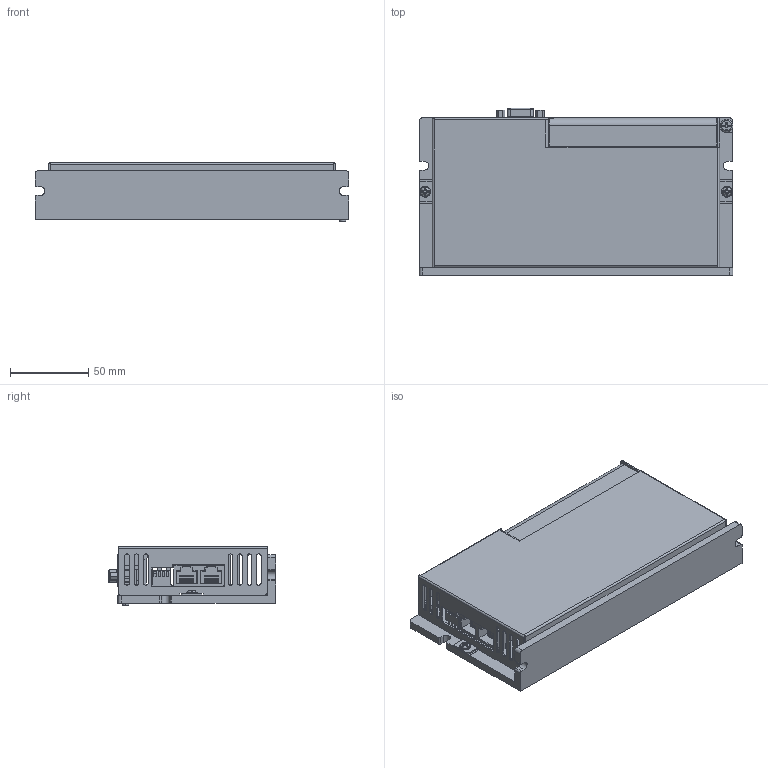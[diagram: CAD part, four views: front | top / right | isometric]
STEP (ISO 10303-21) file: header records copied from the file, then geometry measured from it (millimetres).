
FILE_DESCRIPTION((''),'2;1');
FILE_NAME('000-FD145_ASM_120_ASM_1_ASM','2024-03-06T16:28:24',('RD0058'),(''),'CREO PARAMETRIC BY PTC INC, 2016510','CREO PARAMETRIC BY PTC INC, 2016510','');
FILE_SCHEMA(('CONFIG_CONTROL_DESIGN','SHAPE_APPEARANCE_LAYERS_GROUPS'));
Products named in the file (14): DXF_50_1; BOMA_4_88_1; 9ZHEN-DAOLISHI_2_83_1; CON_NETWORK_PORT_83_1; F8CR-THR-3_5-14P-A-L28_83_1; C165948_TYPE-C_83_1; FD145_1V0-20240108_ASM_12_1; BRTB130-00-XX-C; ASSY_PCA_BOTTOM_ASM_118_ASM_1_ASM; FD145-CAHS_125_1; FD145-HT_78_1; SCREW_JIEZI_M3X4_48_1; SCREW_M4X8_49_1; 000-FD145_ASM_120_ASM_1_ASM
Assembly tree (14 placements, depth 3):
  000-FD145_ASM_120_ASM_1_ASM
    ASSY_PCA_BOTTOM_ASM_118_ASM_1_ASM
      DXF_50_1
      BOMA_4_88_1
      9ZHEN-DAOLISHI_2_83_1
      CON_NETWORK_PORT_83_1
      F8CR-THR-3_5-14P-A-L28_83_1
      C165948_TYPE-C_83_1
      FD145_1V0-20240108_ASM_12_1
      BRTB130-00-XX-C
    FD145-CAHS_125_1
    FD145-HT_78_1
    SCREW_JIEZI_M3X4_48_1  x2
    SCREW_M4X8_49_1
Bounding box: 200 x 106.5 x 37.2 mm (x, y, z)
Volume: 193851.5 mm3; surface area: 130818.5 mm2
Topology: 11 solids, 32 shells, 2459 faces, 6428 edges, 4167 vertices
Faces by surface type: plane 1677, cylinder 626, torus 82, bspline 36, extrusion 28, cone 10
Entity records: 90881 total; most frequent: CARTESIAN_POINT 16564, ORIENTED_EDGE 12448, DIRECTION 11652, EDGE_CURVE 6224, VECTOR 4718, LINE 4690, VERTEX_POINT 4037, AXIS2_PLACEMENT_3D 3467
